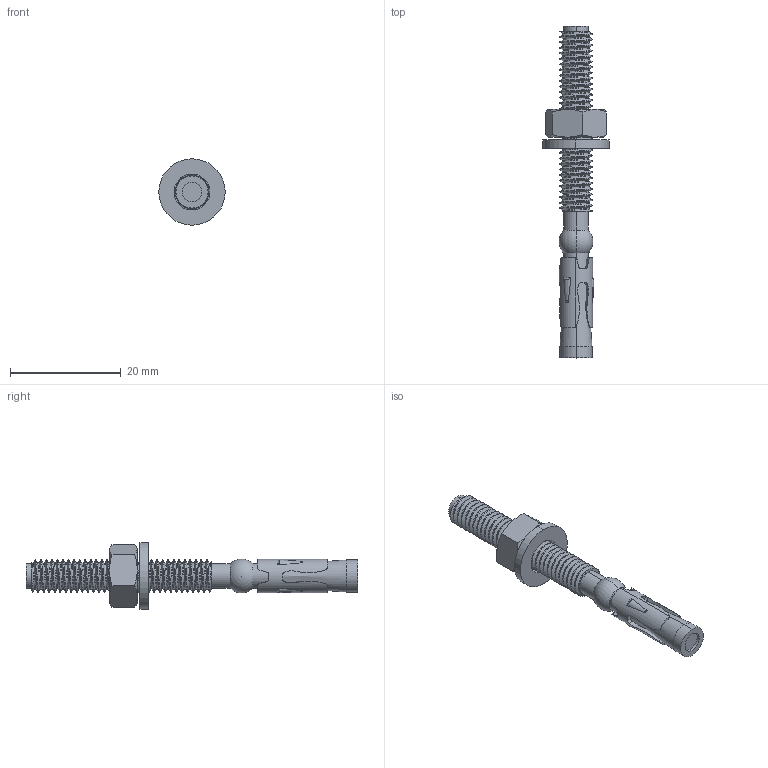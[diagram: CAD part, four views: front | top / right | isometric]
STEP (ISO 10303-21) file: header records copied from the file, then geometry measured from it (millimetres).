
FILE_DESCRIPTION (( 'STEP AP214' ), '1' );
FILE_NAME ('Àíêåð êëèíîâîé Ì6õ60.STEP', '2023-02-28T09:49:49', ( '' ), ( '' ), 'SwSTEP 2.0', 'SolidWorks 2020', '' );
FILE_SCHEMA (( 'AUTOMOTIVE_DESIGN' ));
Length unit declared in the file: millimetre
Products named in the file (5): Àíêåð êëèíîâîé Ì6õ60 (1); Ãàéêà Ì6 ÃÎÑÒ 5915-70; Àíêåð êëèíîâîé Ì6õ60 (2); Àíêåð êëèíîâîé Ì6õ60; Àíêåð êëèíîâîé Ì6õ60 (3)
Assembly tree (4 placements, depth 2):
  Àíêåð êëèíîâîé Ì6õ60
    Àíêåð êëèíîâîé Ì6õ60 (1)
    Àíêåð êëèíîâîé Ì6õ60 (2)
    Àíêåð êëèíîâîé Ì6õ60 (3)
    Ãàéêà Ì6 ÃÎÑÒ 5915-70
Bounding box: 12 x 60 x 12 mm (x, y, z)
Volume: 1783.2 mm3; surface area: 2340.7 mm2
Topology: 4 solids, 4 shells, 181 faces, 488 edges, 317 vertices
Faces by surface type: cylinder 108, plane 33, cone 21, bspline 11, torus 6, sphere 2
Entity records: 11742 total; most frequent: CARTESIAN_POINT 7454, ORIENTED_EDGE 966, DIRECTION 661, EDGE_CURVE 483, VERTEX_POINT 314, AXIS2_PLACEMENT_3D 259, EDGE_LOOP 191, FACE_OUTER_BOUND 181
